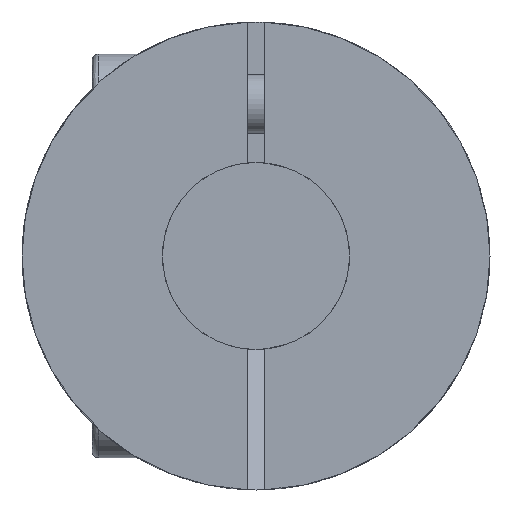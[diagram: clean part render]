
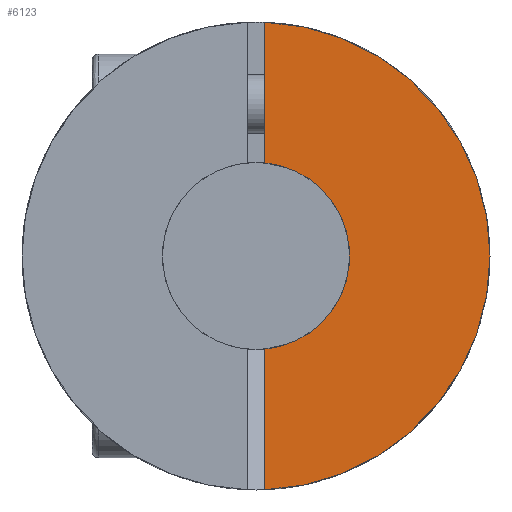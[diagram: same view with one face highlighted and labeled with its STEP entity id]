
A CAD part, front view. The second image highlights one B-rep face of the part: STEP entity #6123.
In plain terms, the highlighted planar face has unit normal (0, -1, 0).
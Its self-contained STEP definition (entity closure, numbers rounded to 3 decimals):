
#366 = EDGE_CURVE ( 'NONE', #6860, #7610, #9793, .T. ) ;
#670 = FACE_OUTER_BOUND ( 'NONE', #7778, .T. ) ;
#1084 = PLANE ( 'NONE',  #3943 ) ;
#1144 = VECTOR ( 'NONE', #1295, 1000. ) ;
#1154 = CARTESIAN_POINT ( 'NONE',  ( 0., 0., 0. ) ) ;
#1253 = CIRCLE ( 'NONE', #7815, 8. ) ;
#1295 = DIRECTION ( 'NONE',  ( 0., 0., 1. ) ) ;
#1309 = ORIENTED_EDGE ( 'NONE', *, *, #5138, .F. ) ;
#1986 = ORIENTED_EDGE ( 'NONE', *, *, #2122, .F. ) ;
#2122 = EDGE_CURVE ( 'NONE', #5477, #6387, #5858, .T. ) ;
#2685 = VECTOR ( 'NONE', #8025, 1000. ) ;
#2971 = DIRECTION ( 'NONE',  ( 0., 0., 1. ) ) ;
#3029 = DIRECTION ( 'NONE',  ( 0., -1., 0. ) ) ;
#3180 = ORIENTED_EDGE ( 'NONE', *, *, #4562, .F. ) ;
#3269 = ORIENTED_EDGE ( 'NONE', *, *, #366, .F. ) ;
#3377 = CARTESIAN_POINT ( 'NONE',  ( 0.75, 0., -19.986 ) ) ;
#3402 = DIRECTION ( 'NONE',  ( 0., 1., 0. ) ) ;
#3507 = CIRCLE ( 'NONE', #9112, 20. ) ;
#3723 = CARTESIAN_POINT ( 'NONE',  ( 0., 0., 0. ) ) ;
#3943 = AXIS2_PLACEMENT_3D ( 'NONE', #3723, #3402, #2971 ) ;
#4067 = DIRECTION ( 'NONE',  ( 0., 0., -1. ) ) ;
#4562 = EDGE_CURVE ( 'NONE', #7610, #5477, #1253, .T. ) ;
#4622 = DIRECTION ( 'NONE',  ( 0., 0., -1. ) ) ;
#4788 = CARTESIAN_POINT ( 'NONE',  ( 0., 0., 0. ) ) ;
#5138 = EDGE_CURVE ( 'NONE', #6387, #6860, #3507, .T. ) ;
#5415 = CARTESIAN_POINT ( 'NONE',  ( 0.75, 0., 7.965 ) ) ;
#5477 = VERTEX_POINT ( 'NONE', #5415 ) ;
#5654 = CARTESIAN_POINT ( 'NONE',  ( 0.75, 0., -7.965 ) ) ;
#5858 = LINE ( 'NONE', #8907, #1144 ) ;
#6123 = ADVANCED_FACE ( 'NONE', ( #670 ), #1084, .F. ) ;
#6387 = VERTEX_POINT ( 'NONE', #8425 ) ;
#6526 = CARTESIAN_POINT ( 'NONE',  ( 0.75, 0., 0. ) ) ;
#6860 = VERTEX_POINT ( 'NONE', #3377 ) ;
#7262 = DIRECTION ( 'NONE',  ( 0., 1., 0. ) ) ;
#7610 = VERTEX_POINT ( 'NONE', #5654 ) ;
#7778 = EDGE_LOOP ( 'NONE', ( #1309, #1986, #3180, #3269 ) ) ;
#7815 = AXIS2_PLACEMENT_3D ( 'NONE', #4788, #3029, #4622 ) ;
#8025 = DIRECTION ( 'NONE',  ( 0., 0., 1. ) ) ;
#8425 = CARTESIAN_POINT ( 'NONE',  ( 0.75, 0., 19.986 ) ) ;
#8907 = CARTESIAN_POINT ( 'NONE',  ( 0.75, 0., 0. ) ) ;
#9112 = AXIS2_PLACEMENT_3D ( 'NONE', #1154, #7262, #4067 ) ;
#9793 = LINE ( 'NONE', #6526, #2685 ) ;
